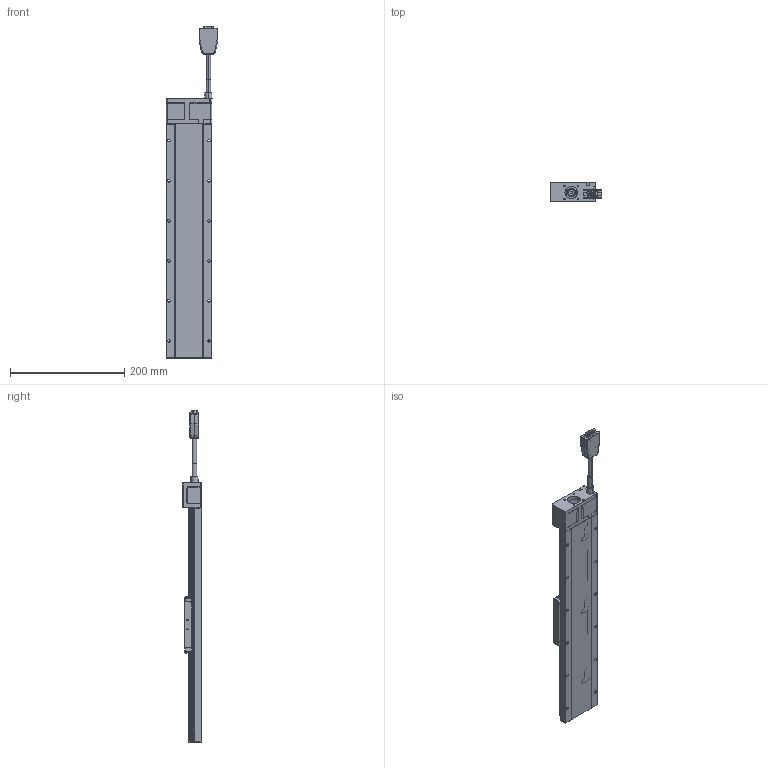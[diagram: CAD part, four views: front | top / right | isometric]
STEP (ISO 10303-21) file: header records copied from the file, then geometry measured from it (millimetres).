
FILE_DESCRIPTION (( 'STEP AP203' ), '1' );
FILE_NAME ('CXN80300-S2?N(µL°¨¹F).S', '2024-01-05T05:20:33', ( '' ), ( '' ), 'SwSTEP 2.0', 'SolidWorks 2019', '' );
FILE_SCHEMA (( 'CONFIG_CONTROL_DESIGN' ));
Length unit declared in the file: millimetre
Products named in the file (3): Group5^CXN80300-S2?N(28框無馬達)_defeature_GMT; CXN80300-S2?N(無馬達); Group4^CXN80300-S2?N(28框無馬達)_defeature_GMT
Assembly tree (2 placements, depth 2):
  CXN80300-S2?N(無馬達)
    Group4^CXN80300-S2?N(28框無馬達)_defeature_GMT
    Group5^CXN80300-S2?N(28框無馬達)_defeature_GMT
Bounding box: 90.5 x 33.5 x 580.6 mm (x, y, z)
Volume: 60050.1 mm3; surface area: 189975.2 mm2
Topology: 26 solids, 29 shells, 4241 faces, 10781 edges, 6601 vertices
Faces by surface type: plane 1607, cylinder 1224, cone 517, bspline 431, torus 280, sphere 182
Entity records: 146062 total; most frequent: CARTESIAN_POINT 45244, ORIENTED_EDGE 21174, DIRECTION 21094, EDGE_CURVE 10587, AXIS2_PLACEMENT_3D 7807, VERTEX_POINT 6561, LINE 5480, VECTOR 5480
